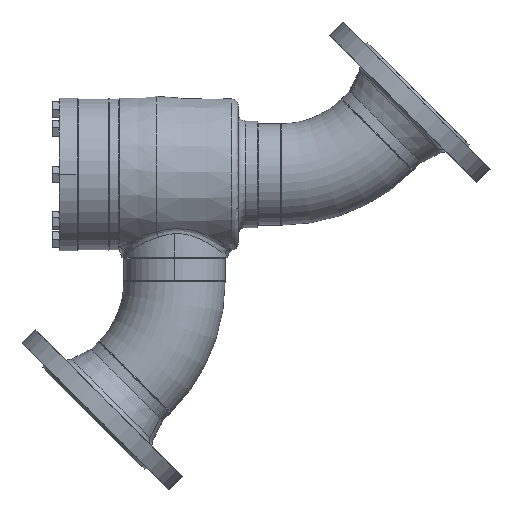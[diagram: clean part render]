
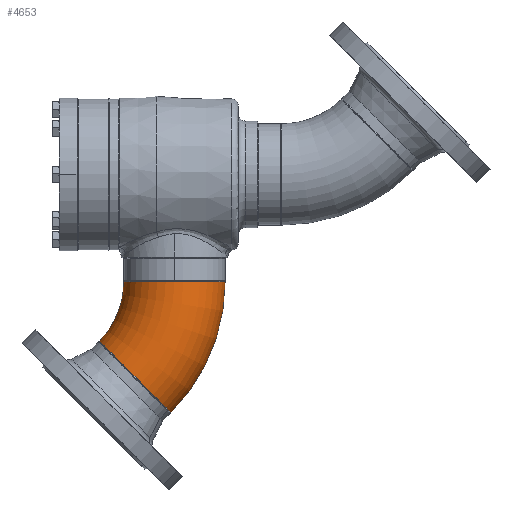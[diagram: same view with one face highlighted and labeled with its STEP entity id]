
A CAD part, left-side view. The second image highlights one B-rep face of the part: STEP entity #4653.
In plain terms, the highlighted toroidal (fillet/blend) face has major radius 152 mm and minor radius 57.15 mm.
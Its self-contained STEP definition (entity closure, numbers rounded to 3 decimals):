
#16585 = CARTESIAN_POINT ( 'NONE',  ( 147.891, -4.109, 0. ) ) ;
#360 = CIRCLE ( 'NONE', #361, 57.15 ) ;
#361 = AXIS2_PLACEMENT_3D ( 'NONE', #362, #363, #364 ) ;
#362 = CARTESIAN_POINT ( 'NONE',  ( 107.48, -44.52, 0. ) ) ;
#363 = DIRECTION ( 'NONE',  ( 0.707, -0.707, 0. ) ) ;
#364 = DIRECTION ( 'NONE',  ( 0., 0., -1. ) ) ;
#3521 = CIRCLE ( 'NONE', #3522, 94.85 ) ;
#3522 = AXIS2_PLACEMENT_3D ( 'NONE', #3523, #3524, #3525 ) ;
#3523 = CARTESIAN_POINT ( 'NONE',  ( 0., -152., 0. ) ) ;
#3524 = DIRECTION ( 'NONE',  ( 0., 0., 1. ) ) ;
#3525 = DIRECTION ( 'NONE',  ( 1., 0., 0. ) ) ;
#4037 = EDGE_CURVE ( 'NONE', #7023, #4882, #3521, .T. ) ;
#4225 = FACE_OUTER_BOUND ( 'NONE', #4356, .T. ) ;
#4226 = TOROIDAL_SURFACE ( 'NONE', #4230, 152., 57.15 ) ;
#4230 = AXIS2_PLACEMENT_3D ( 'NONE', #4231, #4232, #4233 ) ;
#4231 = CARTESIAN_POINT ( 'NONE',  ( 0., -152., 0. ) ) ;
#4232 = DIRECTION ( 'NONE',  ( 0., 0., 1. ) ) ;
#4233 = DIRECTION ( 'NONE',  ( 1., 0., 0. ) ) ;
#4356 = EDGE_LOOP ( 'NONE', ( #7807, #6523, #5449, #4393 ) ) ;
#4393 = ORIENTED_EDGE ( 'NONE', *, *, #4037, .F. ) ;
#4653 = ADVANCED_FACE ( 'NONE', ( #4225 ), #4226, .T. ) ;
#4882 = VERTEX_POINT ( 'NONE', #5914 ) ;
#5092 = EDGE_CURVE ( 'NONE', #5957, #4882, #6123, .T. ) ;
#5449 = ORIENTED_EDGE ( 'NONE', *, *, #5092, .T. ) ;
#5914 = CARTESIAN_POINT ( 'NONE',  ( 0., -57.15, 0. ) ) ;
#5957 = VERTEX_POINT ( 'NONE', #6927 ) ;
#6123 = CIRCLE ( 'NONE', #6124, 57.15 ) ;
#6124 = AXIS2_PLACEMENT_3D ( 'NONE', #6125, #6126, #6127 ) ;
#6125 = CARTESIAN_POINT ( 'NONE',  ( 0., 0., 0. ) ) ;
#6126 = DIRECTION ( 'NONE',  ( 1., 0., 0. ) ) ;
#6127 = DIRECTION ( 'NONE',  ( 0., 0., -1. ) ) ;
#6169 = EDGE_CURVE ( 'NONE', #7240, #5957, #7073, .T. ) ;
#6523 = ORIENTED_EDGE ( 'NONE', *, *, #6169, .T. ) ;
#6927 = CARTESIAN_POINT ( 'NONE',  ( 0., 57.15, 0. ) ) ;
#7023 = VERTEX_POINT ( 'NONE', #16201 ) ;
#7073 = CIRCLE ( 'NONE', #7074, 209.15 ) ;
#7074 = AXIS2_PLACEMENT_3D ( 'NONE', #7075, #7076, #7077 ) ;
#7075 = CARTESIAN_POINT ( 'NONE',  ( 0., -152., 0. ) ) ;
#7076 = DIRECTION ( 'NONE',  ( 0., 0., 1. ) ) ;
#7077 = DIRECTION ( 'NONE',  ( 1., 0., 0. ) ) ;
#7240 = VERTEX_POINT ( 'NONE', #16585 ) ;
#7454 = EDGE_CURVE ( 'NONE', #7240, #7023, #360, .T. ) ;
#7807 = ORIENTED_EDGE ( 'NONE', *, *, #7454, .F. ) ;
#16201 = CARTESIAN_POINT ( 'NONE',  ( 67.069, -84.931, 0. ) ) ;
